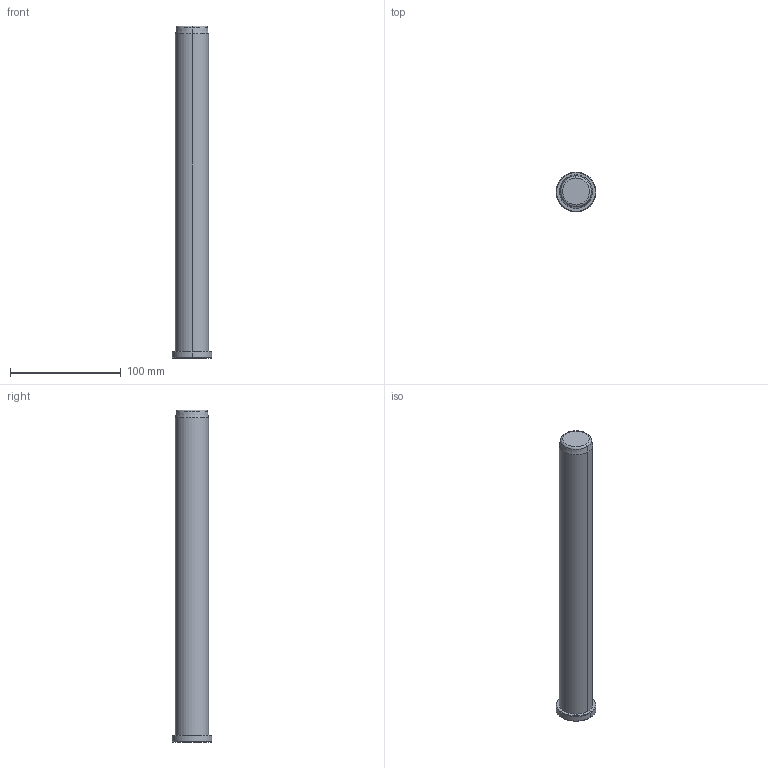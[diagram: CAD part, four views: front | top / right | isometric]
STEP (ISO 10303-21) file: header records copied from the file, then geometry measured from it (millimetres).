
FILE_DESCRIPTION((''),'2;1');
FILE_NAME('B81830300','2018-01-06T',('MANU'),(''),'PRO/ENGINEER BY PARAMETRIC TECHNOLOGY CORPORATION, 2012130','PRO/ENGINEER BY PARAMETRIC TECHNOLOGY CORPORATION, 2012130','');
FILE_SCHEMA(('CONFIG_CONTROL_DESIGN'));
Length unit declared in the file: millimetre
Products named in the file (1): B81830300
Bounding box: 36 x 36 x 300 mm (x, y, z)
Volume: 213451.9 mm3; surface area: 30177.2 mm2
Topology: 1 solids, 1 shells, 15 faces, 28 edges, 16 vertices
Faces by surface type: cone 6, cylinder 4, plane 3, torus 2
Entity records: 414 total; most frequent: DIRECTION 76, CARTESIAN_POINT 59, ORIENTED_EDGE 56, AXIS2_PLACEMENT_3D 33, EDGE_CURVE 28, CIRCLE 18, VERTEX_POINT 16, EDGE_LOOP 16
